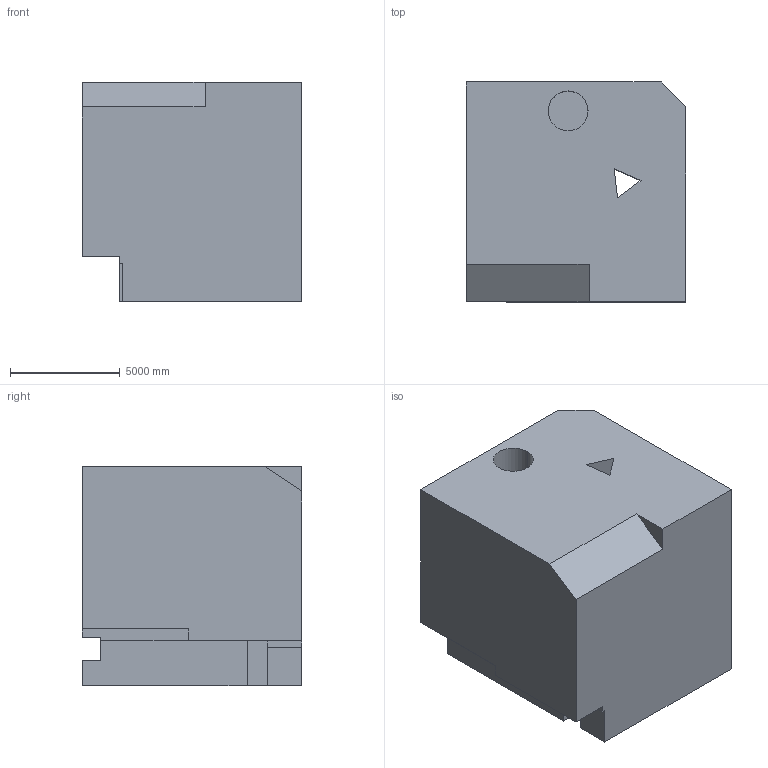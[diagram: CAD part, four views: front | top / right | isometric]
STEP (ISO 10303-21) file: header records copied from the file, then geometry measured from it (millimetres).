
FILE_DESCRIPTION (( 'STEP AP203' ), '1' );
FILE_NAME ('180.STEP', '2022-09-06T15:23:29', ( 'user' ), ( '' ), 'SwSTEP 2.0', 'SolidWorks 2021', '' );
FILE_SCHEMA (( 'CONFIG_CONTROL_DESIGN' ));
Length unit declared in the file: centimetre
Products named in the file (1): 180
Bounding box: 10000 x 10000 x 10000 mm (x, y, z)
Volume: 910590034925.6 mm3; surface area: 692696783.7 mm2
Topology: 1 solids, 1 shells, 32 faces, 87 edges, 58 vertices
Faces by surface type: plane 30, cylinder 2
Entity records: 1076 total; most frequent: CARTESIAN_POINT 178, ORIENTED_EDGE 174, DIRECTION 157, EDGE_CURVE 87, VECTOR 83, LINE 83, VERTEX_POINT 58, AXIS2_PLACEMENT_3D 37
